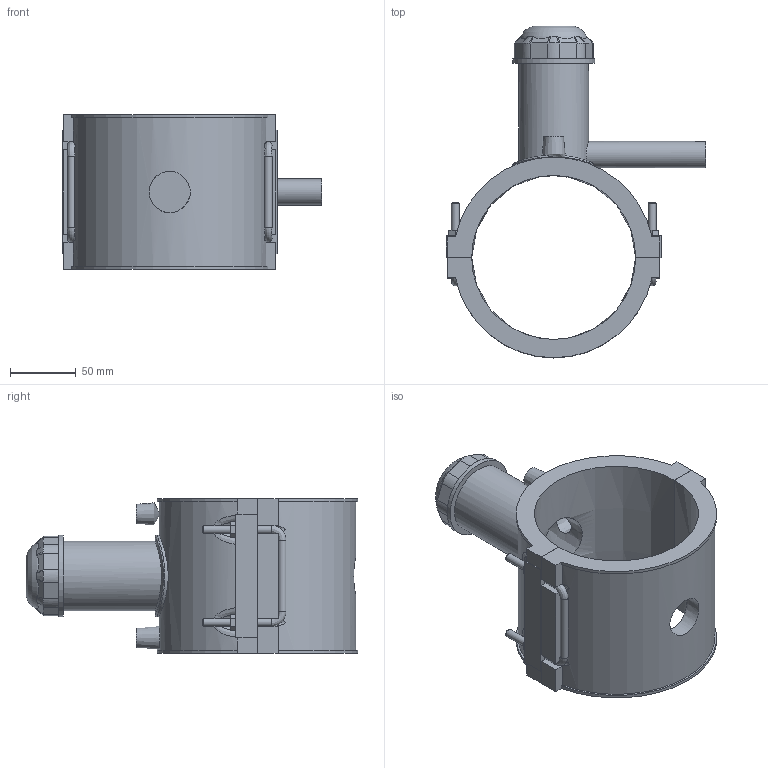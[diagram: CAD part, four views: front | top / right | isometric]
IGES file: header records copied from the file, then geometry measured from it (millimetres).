
Global section: file name: 496304125020.ipt; native system: Autodesk Inventor 2015; preprocessor: unknown; author: KIM; date: 20190124.130902; units: millimetre
Bounding box: 198 x 253 x 118 mm (x, y, z)
Volume: 804960.3 mm3; surface area: 176889.3 mm2
Topology: 2 solids, 4 shells, 224 faces, 567 edges, 364 vertices
Faces by surface type: plane 125, cylinder 36, revolution 28, bspline 21, cone 14
Full cylindrical faces by diameter (mm): 4 x2, 6 x8, 20 x1, 53.125 x1, 62.5 x2
